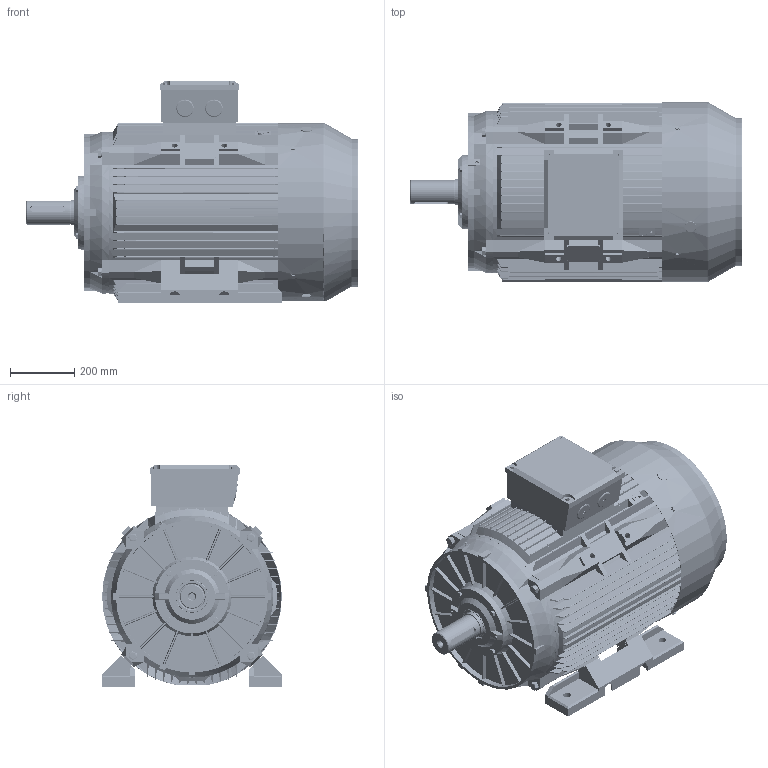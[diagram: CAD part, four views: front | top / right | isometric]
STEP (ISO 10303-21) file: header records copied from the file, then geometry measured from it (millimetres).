
FILE_DESCRIPTION (( 'STEP AP214' ), '1' );
FILE_NAME ('BCT4550.28E603.11.step', '2020-04-23T15:19:53', ( '' ), ( '' ), 'SwSTEP 2.0', 'SolidWorks 2019', '' );
FILE_SCHEMA (( 'AUTOMOTIVE_DESIGN' ));
Length unit declared in the file: millimetre
Products named in the file (1): BCT4550.28E603.11
Bounding box: 1032.2 x 559 x 688.14 mm (x, y, z)
Volume: 38487581.6 mm3; surface area: 7265520.9 mm2
Topology: 43 solids, 44 shells, 10001 faces, 29365 edges, 19382 vertices
Faces by surface type: plane 5020, cylinder 4261, cone 299, torus 182, sphere 124, bspline 115
Entity records: 364868 total; most frequent: CARTESIAN_POINT 91338, ORIENTED_EDGE 58322, DIRECTION 56121, EDGE_CURVE 29161, VERTEX_POINT 19320, AXIS2_PLACEMENT_3D 19079, VECTOR 17963, LINE 17963
